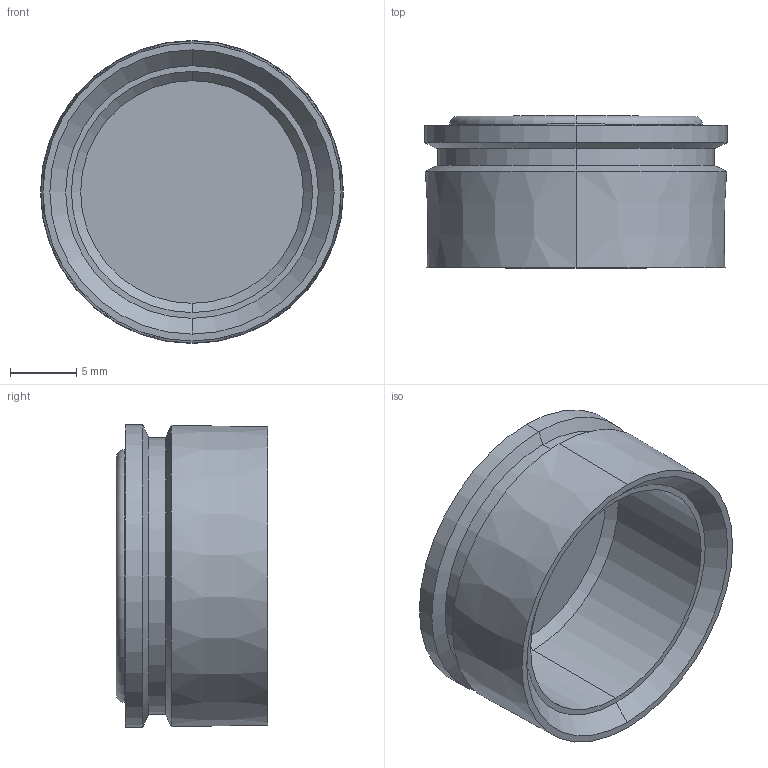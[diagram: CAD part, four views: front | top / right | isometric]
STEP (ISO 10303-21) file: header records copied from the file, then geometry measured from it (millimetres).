
FILE_DESCRIPTION (( 'STEP AP203' ), '1' );
FILE_NAME ('plc-pg-21-00.00.004 Óïëîòíèòåëü (PG21) #sealant (PG21)#.STEP', '2024-04-24T09:36:52', ( '' ), ( '' ), 'SwSTEP 2.0', 'SolidWorks 2021', '' );
FILE_SCHEMA (( 'CONFIG_CONTROL_DESIGN' ));
Length unit declared in the file: millimetre
Products named in the file (1): plc-pg-21-00.00.004 Óïëîòíèòåëü (PG21) #sealant (PG21)#
Bounding box: 22.96 x 11.48 x 22.96 mm (x, y, z)
Volume: 1582.1 mm3; surface area: 2242.7 mm2
Topology: 1 solids, 1 shells, 25 faces, 48 edges, 28 vertices
Faces by surface type: cone 12, cylinder 6, plane 5, torus 2
Entity records: 713 total; most frequent: DIRECTION 130, CARTESIAN_POINT 102, ORIENTED_EDGE 96, AXIS2_PLACEMENT_3D 56, EDGE_CURVE 48, CIRCLE 30, EDGE_LOOP 28, VERTEX_POINT 28
